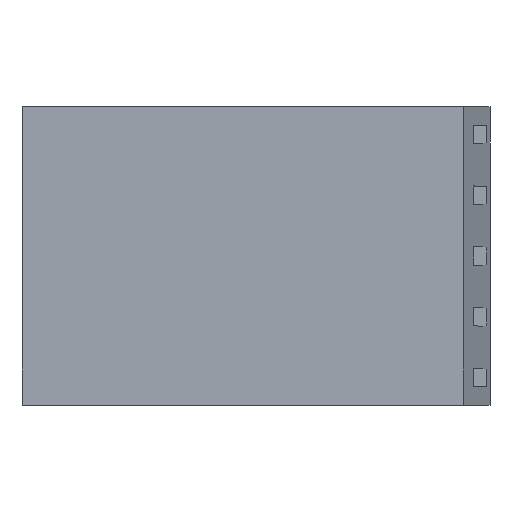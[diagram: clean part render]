
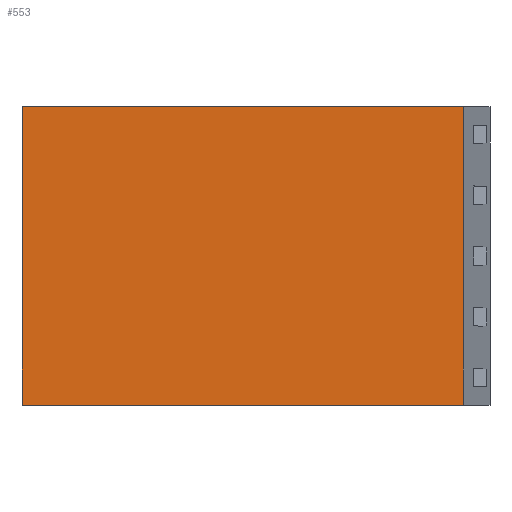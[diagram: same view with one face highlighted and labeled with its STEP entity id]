
A CAD part, top view. The second image highlights one B-rep face of the part: STEP entity #553.
In plain terms, the highlighted planar face has unit normal (0, 0, 1).
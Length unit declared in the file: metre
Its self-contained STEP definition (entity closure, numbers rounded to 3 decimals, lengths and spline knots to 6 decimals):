
#152=ORIENTED_EDGE('',*,*,#166,.T.);
#153=ORIENTED_EDGE('',*,*,#187,.T.);
#154=ORIENTED_EDGE('',*,*,#163,.T.);
#155=ORIENTED_EDGE('',*,*,#161,.F.);
#161=EDGE_CURVE('',#232,#233,#281,.T.);
#163=EDGE_CURVE('',#234,#233,#283,.F.);
#166=EDGE_CURVE('',#232,#235,#286,.T.);
#187=EDGE_CURVE('',#235,#234,#307,.T.);
#232=VERTEX_POINT('',#738);
#233=VERTEX_POINT('',#740);
#234=VERTEX_POINT('',#744);
#235=VERTEX_POINT('',#748);
#281=LINE('',#739,#353);
#283=LINE('',#743,#355);
#286=LINE('',#749,#358);
#307=LINE('',#791,#379);
#353=VECTOR('',#601,1.);
#355=VECTOR('',#605,1.);
#358=VECTOR('',#610,1.);
#379=VECTOR('',#633,1.);
#455=EDGE_LOOP('',(#152,#153,#154,#155));
#491=FACE_BOUND('',#455,.T.);
#522=PLANE('',#589);
#553=ADVANCED_FACE('',(#491),#522,.T.);
#589=AXIS2_PLACEMENT_3D('',#877,#724,#725);
#601=DIRECTION('',(-1.,0.,0.));
#605=DIRECTION('',(0.,1.,0.));
#610=DIRECTION('',(0.,1.,0.));
#633=DIRECTION('',(-1.,0.,0.));
#724=DIRECTION('',(0.,0.,1.));
#725=DIRECTION('',(0.,1.,0.));
#738=CARTESIAN_POINT('',(0.037999,-0.00245,-0.030865));
#739=CARTESIAN_POINT('',(0.038748,-0.00245,-0.030865));
#740=CARTESIAN_POINT('',(0.030748,-0.00245,-0.030865));
#743=CARTESIAN_POINT('',(0.030748,0.,-0.030865));
#744=CARTESIAN_POINT('',(0.030748,0.00245,-0.030865));
#748=CARTESIAN_POINT('',(0.037999,0.00245,-0.030865));
#749=CARTESIAN_POINT('',(0.037999,0.,-0.030865));
#791=CARTESIAN_POINT('',(0.038748,0.00245,-0.030865));
#877=CARTESIAN_POINT('',(0.038748,0.,-0.030865));
